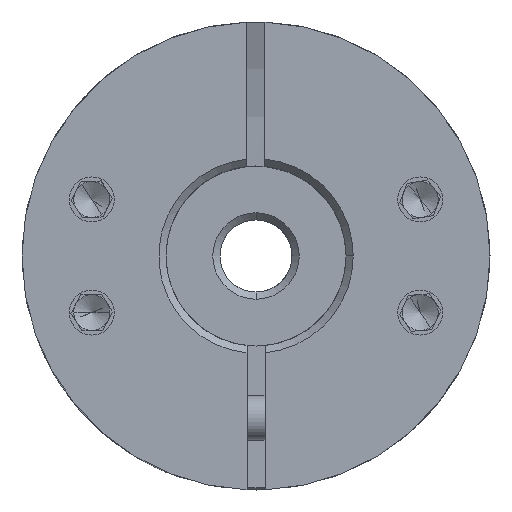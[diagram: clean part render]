
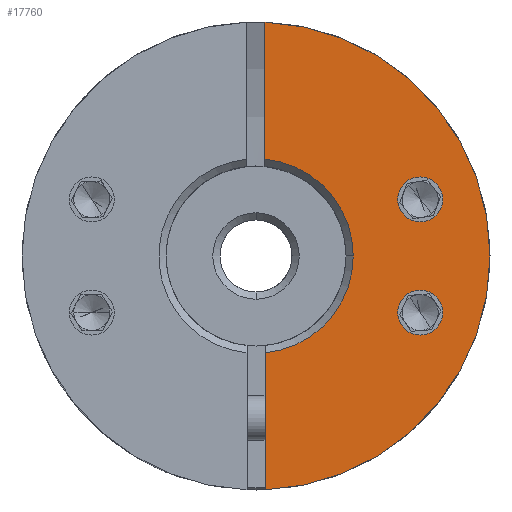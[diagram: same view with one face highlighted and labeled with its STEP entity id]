
A CAD part, front view. The second image highlights one B-rep face of the part: STEP entity #17760.
In plain terms, the highlighted planar face has unit normal (0, -1, 0).
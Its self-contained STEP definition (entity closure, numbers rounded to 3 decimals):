
#188 = DIRECTION ( 'NONE',  ( 1., 0., 0. ) ) ;
#196 = VERTEX_POINT ( 'NONE', #19722 ) ;
#300 = ORIENTED_EDGE ( 'NONE', *, *, #9585, .T. ) ;
#384 = CARTESIAN_POINT ( 'NONE',  ( 1.755, -26.289, 0. ) ) ;
#410 = CARTESIAN_POINT ( 'NONE',  ( 9.63, -26.289, 3.142 ) ) ;
#442 = CARTESIAN_POINT ( 'NONE',  ( 1.755, -26.289, 0. ) ) ;
#502 = DIRECTION ( 'NONE',  ( 0., 1., 0. ) ) ;
#504 = ORIENTED_EDGE ( 'NONE', *, *, #4322, .T. ) ;
#674 = VERTEX_POINT ( 'NONE', #12931 ) ;
#756 = CIRCLE ( 'NONE', #8520, 1.25 ) ;
#1078 = EDGE_CURVE ( 'NONE', #12232, #196, #5008, .T. ) ;
#1479 = DIRECTION ( 'NONE',  ( 0., -1., 0. ) ) ;
#1895 = VERTEX_POINT ( 'NONE', #12563 ) ;
#1962 = ORIENTED_EDGE ( 'NONE', *, *, #6492, .T. ) ;
#3019 = AXIS2_PLACEMENT_3D ( 'NONE', #6028, #502, #18501 ) ;
#3040 = CARTESIAN_POINT ( 'NONE',  ( 1.755, -26.289, 0. ) ) ;
#3102 = VERTEX_POINT ( 'NONE', #4140 ) ;
#3493 = DIRECTION ( 'NONE',  ( 0., 1., 0. ) ) ;
#3556 = ORIENTED_EDGE ( 'NONE', *, *, #1078, .T. ) ;
#3614 = VECTOR ( 'NONE', #21803, 1000. ) ;
#3798 = DIRECTION ( 'NONE',  ( 0., 0., -1. ) ) ;
#4140 = CARTESIAN_POINT ( 'NONE',  ( 9.63, -26.289, -3.142 ) ) ;
#4197 = VECTOR ( 'NONE', #3798, 1000. ) ;
#4280 = VERTEX_POINT ( 'NONE', #410 ) ;
#4322 = EDGE_CURVE ( 'NONE', #14417, #3102, #756, .T. ) ;
#4689 = EDGE_LOOP ( 'NONE', ( #1962, #504 ) ) ;
#4876 = AXIS2_PLACEMENT_3D ( 'NONE', #11834, #18862, #22648 ) ;
#5008 = CIRCLE ( 'NONE', #15192, 13. ) ;
#5144 = VERTEX_POINT ( 'NONE', #12290 ) ;
#5225 = CARTESIAN_POINT ( 'NONE',  ( 1.755, -26.289, 0. ) ) ;
#5431 = EDGE_CURVE ( 'NONE', #4280, #12078, #20799, .T. ) ;
#5699 = DIRECTION ( 'NONE',  ( 0., 1., 0. ) ) ;
#5951 = EDGE_LOOP ( 'NONE', ( #12554, #10321, #11811, #300, #14038, #3556 ) ) ;
#6028 = CARTESIAN_POINT ( 'NONE',  ( 10.88, -26.289, 3.142 ) ) ;
#6492 = EDGE_CURVE ( 'NONE', #3102, #14417, #9326, .T. ) ;
#7077 = PLANE ( 'NONE',  #18736 ) ;
#7376 = EDGE_CURVE ( 'NONE', #12078, #4280, #12895, .T. ) ;
#7399 = DIRECTION ( 'NONE',  ( 0., -1., 0. ) ) ;
#7558 = DIRECTION ( 'NONE',  ( 1., 0., 0. ) ) ;
#7572 = CARTESIAN_POINT ( 'NONE',  ( 12.13, -26.289, -3.142 ) ) ;
#8361 = AXIS2_PLACEMENT_3D ( 'NONE', #442, #7399, #20079 ) ;
#8520 = AXIS2_PLACEMENT_3D ( 'NONE', #14748, #21526, #188 ) ;
#8597 = AXIS2_PLACEMENT_3D ( 'NONE', #21706, #16607, #7558 ) ;
#8647 = EDGE_LOOP ( 'NONE', ( #11320, #15417 ) ) ;
#9189 = FACE_OUTER_BOUND ( 'NONE', #5951, .T. ) ;
#9202 = EDGE_CURVE ( 'NONE', #196, #1895, #13946, .T. ) ;
#9251 = VERTEX_POINT ( 'NONE', #11689 ) ;
#9326 = CIRCLE ( 'NONE', #8597, 1.25 ) ;
#9585 = EDGE_CURVE ( 'NONE', #674, #9251, #12535, .T. ) ;
#9995 = EDGE_CURVE ( 'NONE', #1895, #5144, #13626, .T. ) ;
#10185 = DIRECTION ( 'NONE',  ( 1., 0., 0. ) ) ;
#10321 = ORIENTED_EDGE ( 'NONE', *, *, #9995, .T. ) ;
#10328 = CARTESIAN_POINT ( 'NONE',  ( 14.755, -26.289, 0. ) ) ;
#10449 = DIRECTION ( 'NONE',  ( 0., -1., 0. ) ) ;
#11195 = AXIS2_PLACEMENT_3D ( 'NONE', #384, #5699, #16314 ) ;
#11320 = ORIENTED_EDGE ( 'NONE', *, *, #5431, .T. ) ;
#11689 = CARTESIAN_POINT ( 'NONE',  ( 2.255, -26.289, -12.99 ) ) ;
#11811 = ORIENTED_EDGE ( 'NONE', *, *, #15912, .T. ) ;
#11834 = CARTESIAN_POINT ( 'NONE',  ( 10.88, -26.289, 3.142 ) ) ;
#12078 = VERTEX_POINT ( 'NONE', #17306 ) ;
#12232 = VERTEX_POINT ( 'NONE', #10328 ) ;
#12290 = CARTESIAN_POINT ( 'NONE',  ( 7.155, -26.289, 0. ) ) ;
#12535 = LINE ( 'NONE', #16779, #3614 ) ;
#12554 = ORIENTED_EDGE ( 'NONE', *, *, #9202, .T. ) ;
#12563 = CARTESIAN_POINT ( 'NONE',  ( 2.255, -26.289, 5.377 ) ) ;
#12688 = CARTESIAN_POINT ( 'NONE',  ( 2.255, -26.289, 5. ) ) ;
#12895 = CIRCLE ( 'NONE', #4876, 1.25 ) ;
#12931 = CARTESIAN_POINT ( 'NONE',  ( 2.255, -26.289, -5.377 ) ) ;
#13626 = CIRCLE ( 'NONE', #17481, 5.4 ) ;
#13880 = EDGE_CURVE ( 'NONE', #9251, #12232, #14610, .T. ) ;
#13946 = LINE ( 'NONE', #12688, #4197 ) ;
#14038 = ORIENTED_EDGE ( 'NONE', *, *, #13880, .T. ) ;
#14417 = VERTEX_POINT ( 'NONE', #7572 ) ;
#14610 = CIRCLE ( 'NONE', #8361, 13. ) ;
#14748 = CARTESIAN_POINT ( 'NONE',  ( 10.88, -26.289, -3.142 ) ) ;
#15192 = AXIS2_PLACEMENT_3D ( 'NONE', #3040, #1479, #10185 ) ;
#15417 = ORIENTED_EDGE ( 'NONE', *, *, #7376, .T. ) ;
#15912 = EDGE_CURVE ( 'NONE', #5144, #674, #22057, .T. ) ;
#16314 = DIRECTION ( 'NONE',  ( 1., 0., 0. ) ) ;
#16607 = DIRECTION ( 'NONE',  ( 0., 1., 0. ) ) ;
#16779 = CARTESIAN_POINT ( 'NONE',  ( 2.255, -26.289, 5. ) ) ;
#17160 = FACE_BOUND ( 'NONE', #8647, .T. ) ;
#17306 = CARTESIAN_POINT ( 'NONE',  ( 12.13, -26.289, 3.142 ) ) ;
#17481 = AXIS2_PLACEMENT_3D ( 'NONE', #5225, #3493, #17701 ) ;
#17701 = DIRECTION ( 'NONE',  ( 1., 0., 0. ) ) ;
#17760 = ADVANCED_FACE ( 'NONE', ( #9189, #17160, #21573 ), #7077, .T. ) ;
#18501 = DIRECTION ( 'NONE',  ( 1., 0., 0. ) ) ;
#18736 = AXIS2_PLACEMENT_3D ( 'NONE', #23006, #10449, #19524 ) ;
#18862 = DIRECTION ( 'NONE',  ( 0., 1., 0. ) ) ;
#19524 = DIRECTION ( 'NONE',  ( 1., 0., 0. ) ) ;
#19722 = CARTESIAN_POINT ( 'NONE',  ( 2.255, -26.289, 12.99 ) ) ;
#20079 = DIRECTION ( 'NONE',  ( 1., 0., 0. ) ) ;
#20799 = CIRCLE ( 'NONE', #3019, 1.25 ) ;
#21526 = DIRECTION ( 'NONE',  ( 0., 1., 0. ) ) ;
#21573 = FACE_BOUND ( 'NONE', #4689, .T. ) ;
#21706 = CARTESIAN_POINT ( 'NONE',  ( 10.88, -26.289, -3.142 ) ) ;
#21803 = DIRECTION ( 'NONE',  ( 0., 0., -1. ) ) ;
#22057 = CIRCLE ( 'NONE', #11195, 5.4 ) ;
#22648 = DIRECTION ( 'NONE',  ( 1., 0., 0. ) ) ;
#23006 = CARTESIAN_POINT ( 'NONE',  ( 1.755, -26.289, 0. ) ) ;
